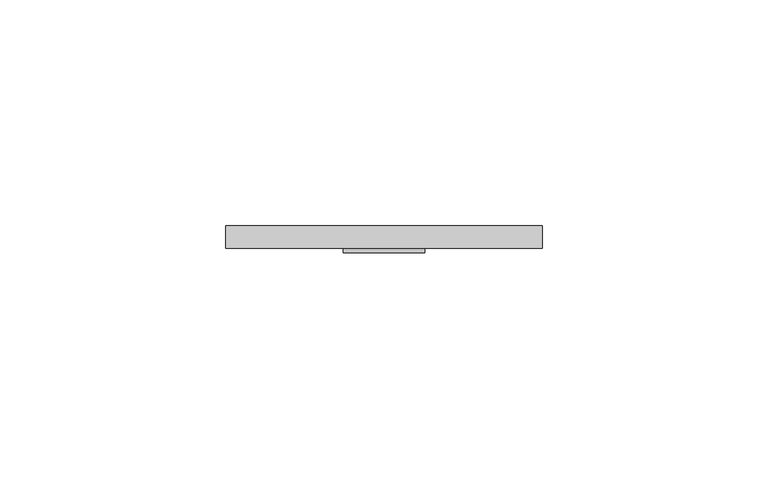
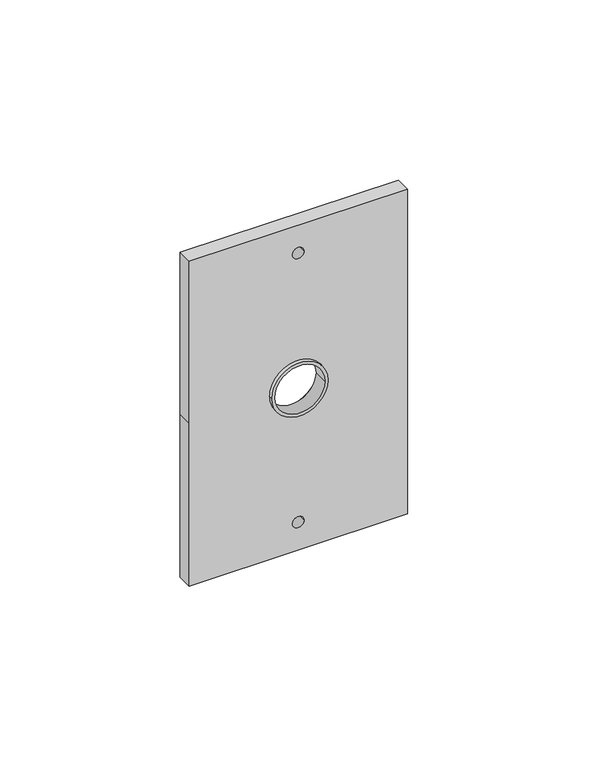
"""IFC4 building model written with IfcOpenShell, lengths in millimetres: proxy geometry, Timbre - sonido : Contacto-comunicaciones."""

from ifc_helpers import new_model, si_unit, point, frame, frame_2d, origin, place, context, project, spatial, polyline, circle_curve, trimmed, segment, composite_curve, outline, extrude, source, transform, mapped, element, save


def electrical_fixtures_3632eaef(model_context):
    return source(origin(), model_context, "Body", "SweptSolid", [
        extrude(outline(composite_curve([segment(trimmed(circle_curve(frame_2d((2000.0, 125.0)), 9.0), [point((2000.0, 116.0))], [point((2000.0, 134.0))], False, "CARTESIAN"), True, "CONTINUOUS"), segment(trimmed(circle_curve(frame_2d((2000.0, 125.0)), 9.0), [point((2000.0, 134.0))], [point((2000.0, 116.0))], False, "CARTESIAN"), True, "CONTINUOUS")], self_intersect=False), holes=[composite_curve([segment(trimmed(circle_curve(frame_2d((2000.0, 125.0)), 8.0), [point((2000.0, 133.0))], [point((2000.0, 117.0))], True, "CARTESIAN"), True, "CONTINUOUS"), segment(trimmed(circle_curve(frame_2d((2000.0, 125.0)), 8.0), [point((2000.0, 117.0))], [point((2000.0, 133.0))], True, "CARTESIAN"), True, "CONTINUOUS")], self_intersect=False)]), frame((0.0, -95.9684395, 0.0), z_axis=(0.0, 1.0, 0.0), x_axis=(0.0, 0.0, 1.0)), (0.0, 0.0, 1.0), 4.7658788),
        extrude(outline(polyline([(2055.0, 160.0), (2055.0, 90.0), (2000.0, 90.0), (1945.0, 90.0), (1945.0, 160.0), (2055.0, 160.0)]), holes=[composite_curve([segment(trimmed(circle_curve(frame_2d((2045.5814465, 125.0)), 1.8475425), [point((2045.5814465, 123.1524575))], [point((2045.5814465, 126.8475425))], True, "CARTESIAN"), True, "CONTINUOUS"), segment(trimmed(circle_curve(frame_2d((2045.5814465, 125.0)), 1.8475425), [point((2045.5814465, 126.8475425))], [point((2045.5814465, 123.1524575))], True, "CARTESIAN"), True, "CONTINUOUS")], self_intersect=False), composite_curve([segment(trimmed(circle_curve(frame_2d((1954.4185535, 125.0)), 1.8475425), [point((1954.4185535, 123.1524575))], [point((1954.4185535, 126.8475425))], True, "CARTESIAN"), True, "CONTINUOUS"), segment(trimmed(circle_curve(frame_2d((1954.4185535, 125.0)), 1.8475425), [point((1954.4185535, 126.8475425))], [point((1954.4185535, 123.1524575))], True, "CARTESIAN"), True, "CONTINUOUS")], self_intersect=False), composite_curve([segment(trimmed(circle_curve(frame_2d((2000.0, 125.0)), 9.0), [point((2000.0, 116.0))], [point((2000.0, 134.0))], True, "CARTESIAN"), True, "CONTINUOUS"), segment(trimmed(circle_curve(frame_2d((2000.0, 125.0)), 9.0), [point((2000.0, 134.0))], [point((2000.0, 116.0))], True, "CARTESIAN"), True, "CONTINUOUS")], self_intersect=False)]), frame((0.0, -95.0, 0.0), z_axis=(0.0, 1.0, 0.0), x_axis=(0.0, 0.0, 1.0)), (0.0, 0.0, 1.0), 5.0),
    ])


if __name__ == "__main__":
    model = new_model("IFC4")
    model_context = context("Model", 3, world=origin())
    ifc_project = project(units=[si_unit("LENGTHUNIT", "METRE", prefix="MILLI")], contexts=[model_context])
    site = spatial("IfcSite", under=ifc_project)
    building = spatial("IfcBuilding", under=site)
    placement = place(None, origin())
    electrical_fixtures_shape = electrical_fixtures_3632eaef(model_context)
    element("IfcBuildingElementProxy", 1, Name="Timbre - sonido : Contacto-comunicaciones", ObjectType="Timbre - sonido : Contacto-comunicaciones", at=placement, inside=building, context=model_context, shape_type="MappedRepresentation", body=[
        mapped(electrical_fixtures_shape, transform((0.0, 0.0, 0.0), x_axis=(1.0, 0.0, 0.0), y_axis=(0.0, 1.0, 0.0), z_axis=(0.0, 0.0, 1.0))),
    ])
    save(model, "model.ifc")
